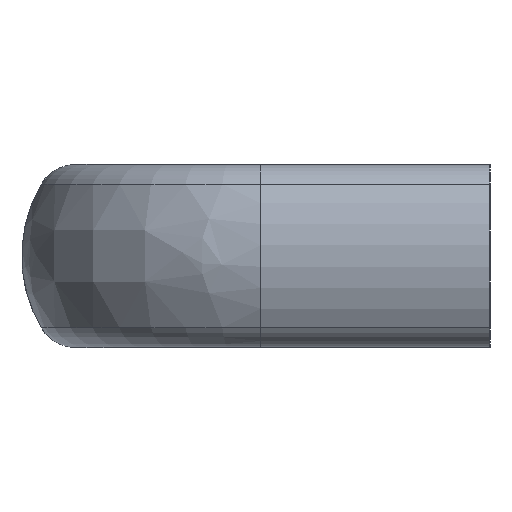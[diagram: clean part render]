
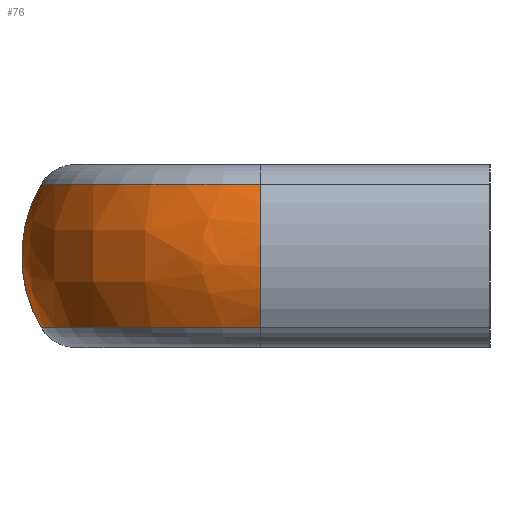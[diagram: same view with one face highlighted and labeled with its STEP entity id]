
A CAD part, left-side view. The second image highlights one B-rep face of the part: STEP entity #76.
In plain terms, the highlighted free-form (B-spline) face has degree [3, 3] with [4, 4] control points.
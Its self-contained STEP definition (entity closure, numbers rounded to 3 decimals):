
#76 = ADVANCED_FACE( '', ( #131 ), #132, .T. );
#131 = FACE_OUTER_BOUND( '', #243, .T. );
#132 = ( BOUNDED_SURFACE(  )B_SPLINE_SURFACE( 3, 3, ( ( #246, #247, #248, #249 ), ( #250, #251, #252, #253 ), ( #254, #255, #256, #257 ), ( #258, #259, #260, #261 ) ), .UNSPECIFIED., .F., .F., .F. )B_SPLINE_SURFACE_WITH_KNOTS( ( 4, 4 ), ( 4, 4 ), ( 1.571, 3.142 ), ( -0.533, 0.533 ), .UNSPECIFIED. )GEOMETRIC_REPRESENTATION_ITEM(  )RATIONAL_B_SPLINE_SURFACE( ( ( 1., 0.805, 0.805, 1. ), ( 0.907, 0.73, 0.73, 0.907 ), ( 0.907, 0.73, 0.73, 0.907 ), ( 1., 0.805, 0.805, 1. ) ) )REPRESENTATION_ITEM( '' )SURFACE(  ) );
#243 = EDGE_LOOP( '', ( #404, #405, #406, #407 ) );
#246 = CARTESIAN_POINT( '', ( -60.5, 48.852, 7.826 ) );
#247 = CARTESIAN_POINT( '', ( -74.472, 48.852, 7.826 ) );
#248 = CARTESIAN_POINT( '', ( -84.352, 38.972, 7.826 ) );
#249 = CARTESIAN_POINT( '', ( -84.352, 25., 7.826 ) );
#250 = CARTESIAN_POINT( '', ( -60.5, 51.775, 2.875 ) );
#251 = CARTESIAN_POINT( '', ( -76.185, 51.775, 2.875 ) );
#252 = CARTESIAN_POINT( '', ( -87.275, 40.685, 2.875 ) );
#253 = CARTESIAN_POINT( '', ( -87.275, 25., 2.875 ) );
#254 = CARTESIAN_POINT( '', ( -60.5, 51.775, -2.875 ) );
#255 = CARTESIAN_POINT( '', ( -76.185, 51.775, -2.875 ) );
#256 = CARTESIAN_POINT( '', ( -87.275, 40.685, -2.875 ) );
#257 = CARTESIAN_POINT( '', ( -87.275, 25., -2.875 ) );
#258 = CARTESIAN_POINT( '', ( -60.5, 48.852, -7.826 ) );
#259 = CARTESIAN_POINT( '', ( -74.472, 48.852, -7.826 ) );
#260 = CARTESIAN_POINT( '', ( -84.352, 38.972, -7.826 ) );
#261 = CARTESIAN_POINT( '', ( -84.352, 25., -7.826 ) );
#404 = ORIENTED_EDGE( '', *, *, #799, .T. );
#405 = ORIENTED_EDGE( '', *, *, #800, .F. );
#406 = ORIENTED_EDGE( '', *, *, #801, .F. );
#407 = ORIENTED_EDGE( '', *, *, #802, .T. );
#799 = EDGE_CURVE( '', #921, #925, #927, .T. );
#800 = EDGE_CURVE( '', #928, #925, #929, .T. );
#801 = EDGE_CURVE( '', #930, #928, #931, .T. );
#802 = EDGE_CURVE( '', #930, #921, #932, .T. );
#921 = VERTEX_POINT( '', #1118 );
#925 = VERTEX_POINT( '', #1127 );
#927 = CIRCLE( '', #1129, 23.852 );
#928 = VERTEX_POINT( '', #1130 );
#929 = CIRCLE( '', #1131, 15.391 );
#930 = VERTEX_POINT( '', #1132 );
#931 = CIRCLE( '', #1133, 23.852 );
#932 = B_SPLINE_CURVE_WITH_KNOTS( '', 3, ( #1134, #1135, #1136, #1137, #1138, #1139, #1140, #1141, #1142, #1143 ), .UNSPECIFIED., .F., .F., ( 4, 2, 2, 2, 4 ), ( 0., 0.25, 0.5, 0.75, 1. ), .UNSPECIFIED. );
#1118 = CARTESIAN_POINT( '', ( -60.5, 48.852, -7.833 ) );
#1127 = CARTESIAN_POINT( '', ( -84.352, 25., -7.826 ) );
#1129 = AXIS2_PLACEMENT_3D( '', #1398, #1399, #1400 );
#1130 = CARTESIAN_POINT( '', ( -84.352, 25., 7.826 ) );
#1131 = AXIS2_PLACEMENT_3D( '', #1401, #1402, #1403 );
#1132 = CARTESIAN_POINT( '', ( -60.5, 48.851, 7.834 ) );
#1133 = AXIS2_PLACEMENT_3D( '', #1404, #1405, #1406 );
#1134 = CARTESIAN_POINT( '', ( -60.5, 48.852, 7.826 ) );
#1135 = CARTESIAN_POINT( '', ( -60.5, 49.548, 6.648 ) );
#1136 = CARTESIAN_POINT( '', ( -60.5, 50.085, 5.376 ) );
#1137 = CARTESIAN_POINT( '', ( -60.5, 50.806, 2.736 ) );
#1138 = CARTESIAN_POINT( '', ( -60.5, 50.99, 1.368 ) );
#1139 = CARTESIAN_POINT( '', ( -60.5, 50.99, -1.368 ) );
#1140 = CARTESIAN_POINT( '', ( -60.5, 50.806, -2.736 ) );
#1141 = CARTESIAN_POINT( '', ( -60.5, 50.085, -5.376 ) );
#1142 = CARTESIAN_POINT( '', ( -60.5, 49.548, -6.648 ) );
#1143 = CARTESIAN_POINT( '', ( -60.5, 48.852, -7.826 ) );
#1398 = CARTESIAN_POINT( '', ( -60.5, 25., -7.826 ) );
#1399 = DIRECTION( '', ( 0., 0., 1. ) );
#1400 = DIRECTION( '', ( 1., 0., 0. ) );
#1401 = CARTESIAN_POINT( '', ( -71.099, 25., 0. ) );
#1402 = DIRECTION( '', ( 0., -1., 0. ) );
#1403 = DIRECTION( '', ( 0., 0., 1. ) );
#1404 = CARTESIAN_POINT( '', ( -60.5, 25., 7.826 ) );
#1405 = DIRECTION( '', ( 0., 0., 1. ) );
#1406 = DIRECTION( '', ( 1., 0., 0. ) );
